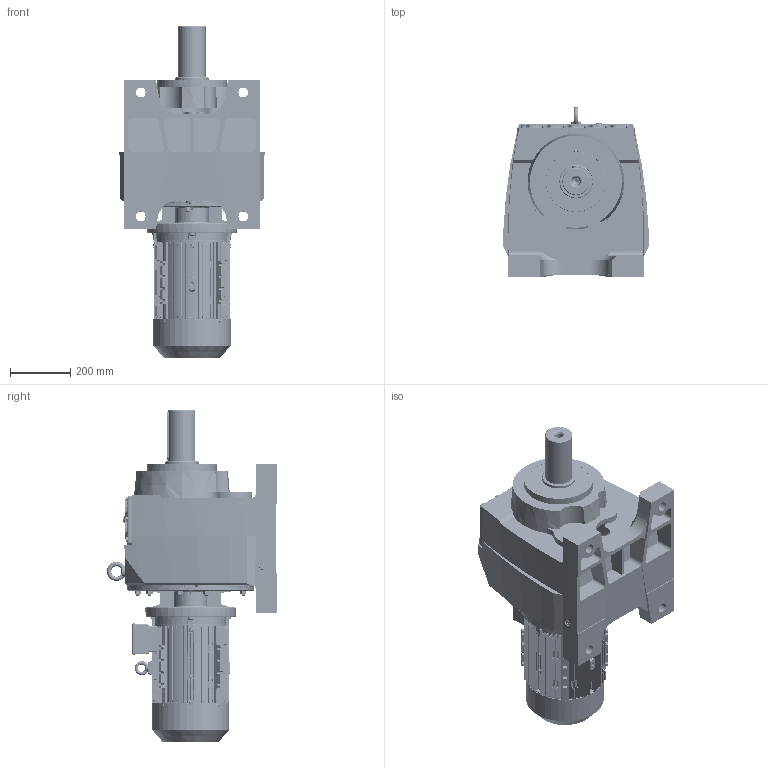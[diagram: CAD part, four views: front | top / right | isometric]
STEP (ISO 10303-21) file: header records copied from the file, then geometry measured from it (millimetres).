
FILE_DESCRIPTION (( 'STEP AP203' ), '1' );
FILE_NAME ('MV_773_0_MX-132M.STEP', '2018-11-27T08:10:33', ( '' ), ( '' ), 'SwSTEP 2.0', 'SolidWorks 2012', '' );
FILE_SCHEMA (( 'CONFIG_CONTROL_DESIGN' ));
Products named in the file (25): MV_773_0_MX-132M; circlips for shaft--type a large gb_GB_CONNECTING_PIECE_RING_RRA 28; cross recessed pan head screws gb_GB_CROSS_SCREWS_TYPE1 M5X12-12  H type-N_1; hexagon flange head tapping screws gb_GB_SQUARE_AND_HEXAGON_TYPE137 ST4.2X9.5 C-N; MX3-132M_B5; hexagon socket head cap screws gb_GB_FASTENER_SCREWS_HSHCS M8X45-N; hex nuts, style 1-grades ab gb_GB_FASTENER_NUT_SNAB1 M8-N; hexagon socket head cap screws gb_GB_FASTENER_SCREWS_HSHCS M8X40-N_1; spring lock washers--normal type gb_GB_FASTENER_WASHER_SW 8_1; 132M B5ﾂ-ｩﾃ; plain parallel keys_GB_CONNECTING_PIECE_KEYS_CSK 10X70_1; ﾋ-ﾀﾔ40X58X7; eyebolts gb_GB_FASTENER_SCREWS_FRS M10-N_1; 132〩仁佞蹉峔; 132〩仁佞怔; -戌呲25; 132 瞬++-4; 132M 俓; 132ÀþiÍ; deep groove ball bearings gb_Rolling bearings 6308 GB 276-94_1; 73132B5_Varsayìlan; 132M B5+ｷ+ﾃ; 132B3ﾂ-ｩﾃ; ML7A_Varsayìlan; M773_Varsayìlan
Assembly tree (52 placements, depth 3):
  MV_773_0_MX-132M
    M773_Varsayìlan
    73132B5_Varsayìlan
    ML7A_Varsayìlan
    MX3-132M_B5
      132M B5+ｷ+ﾃ
      132B3ﾂ-ｩﾃ
      132M 俓
      deep groove ball bearings gb_Rolling bearings 6308 GB 276-94_1  x2
      132 瞬++-4
      132ÀþiÍ
      132〩仁佞蹉峔
      132〩仁佞怔
      -戌呲25  x2
      ﾋ-ﾀﾔ40X58X7
      plain parallel keys_GB_CONNECTING_PIECE_KEYS_CSK 10X70_1
      eyebolts gb_GB_FASTENER_SCREWS_FRS M10-N_1
      132M B5ﾂ-ｩﾃ
      hexagon socket head cap screws gb_GB_FASTENER_SCREWS_HSHCS M8X45-N  x4
      spring lock washers--normal type gb_GB_FASTENER_WASHER_SW 8_1  x8
      hex nuts, style 1-grades ab gb_GB_FASTENER_NUT_SNAB1 M8-N  x7
      hexagon socket head cap screws gb_GB_FASTENER_SCREWS_HSHCS M8X40-N_1  x5
      circlips for shaft--type a large gb_GB_CONNECTING_PIECE_RING_RRA 28
      hexagon flange head tapping screws gb_GB_SQUARE_AND_HEXAGON_TYPE137 ST4.2X9.5 C-N  x4
      cross recessed pan head screws gb_GB_CROSS_SCREWS_TYPE1 M5X12-12  H type-N_1  x4
Bounding box: 480 x 563 x 1098.12 mm (x, y, z)
Volume: 78963875.7 mm3; surface area: 3887230.5 mm2
Topology: 52 solids, 54 shells, 8713 faces, 22310 edges, 13600 vertices
Faces by surface type: plane 2868, bspline 2213, cylinder 2183, cone 933, torus 378, sphere 138
Entity records: 330407 total; most frequent: CARTESIAN_POINT 151226, ORIENTED_EDGE 40546, DIRECTION 31264, EDGE_CURVE 20273, VERTEX_POINT 12445, AXIS2_PLACEMENT_3D 11511, EDGE_LOOP 8736, VECTOR 8242
